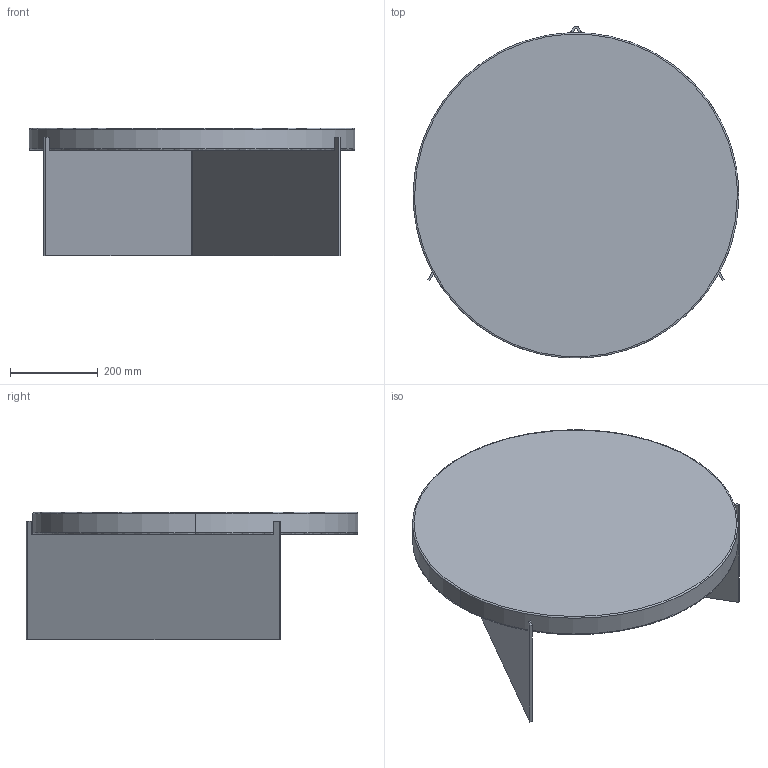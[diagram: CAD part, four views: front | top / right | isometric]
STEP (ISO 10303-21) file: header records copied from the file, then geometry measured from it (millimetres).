
FILE_DESCRIPTION(/* description */ (''),/* implementation_level */ '2;1');
FILE_NAME(/* name */ 'Pulpo Alwa One Super Big',/* time_stamp */ '2024-03-05T14:15:35+01:00',/* author */ (''),/* organization */ (''),/* preprocessor_version */ 'ST-DEVELOPER v16.5',/* originating_system */ '',/* authorisation */ '');
FILE_SCHEMA (('AUTOMOTIVE_DESIGN'));
Length unit declared in the file: millimetre
Products named in the file (1): Document
Bounding box: 740 x 754.85 x 290 mm (x, y, z)
Volume: 23145702.5 mm3; surface area: 1630166.8 mm2
Topology: 2 solids, 2 shells, 30 faces, 74 edges, 48 vertices
Faces by surface type: bspline 18, plane 12
Entity records: 882 total; most frequent: CARTESIAN_POINT 434, ORIENTED_EDGE 148, EDGE_CURVE 74, VERTEX_POINT 48, ADVANCED_FACE 30, FACE_OUTER_BOUND 30, EDGE_LOOP 30, B_SPLINE_CURVE_WITH_KNOTS 24
